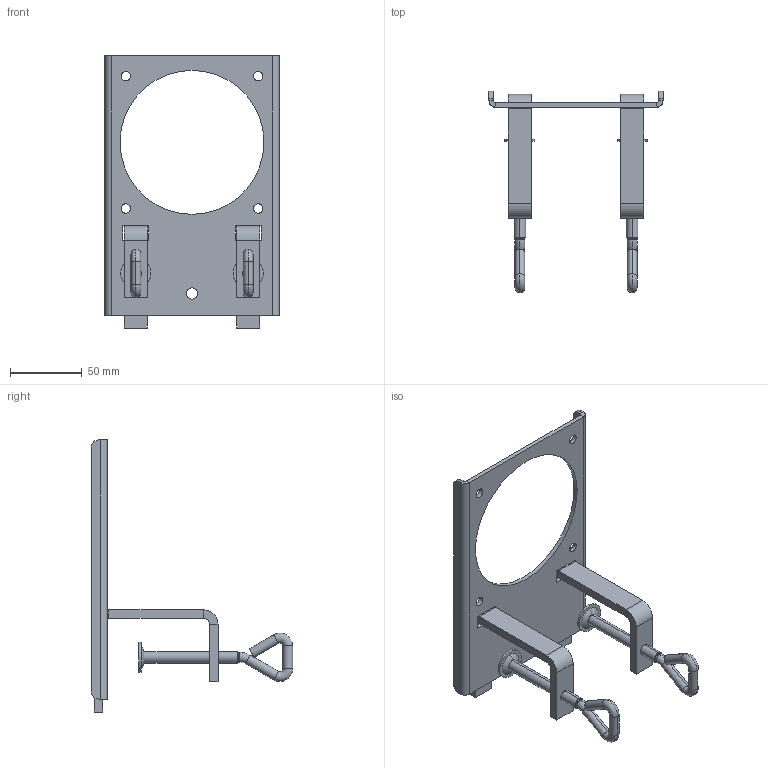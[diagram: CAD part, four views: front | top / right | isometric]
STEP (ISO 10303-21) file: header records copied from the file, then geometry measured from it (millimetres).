
FILE_DESCRIPTION((''),'2;1');
FILE_NAME('124418_ASM','2022-02-14T07:56:14',('SYSTEM'),(''),'CREO PARAMETRIC BY PTC INC, 2018260','CREO PARAMETRIC BY PTC INC, 2018260','');
FILE_SCHEMA(('CONFIG_CONTROL_DESIGN'));
Length unit declared in the file: millimetre
Products named in the file (5): 100735_PRT; 124415-1_PRT; 124415-2_PRT; 124415_ASM; 124418_ASM
Assembly tree (5 placements, depth 3):
  124418_ASM
    100735_PRT
    124415_ASM  x2
      124415-1_PRT
      124415-2_PRT
Bounding box: 121 x 139.8 x 189 mm (x, y, z)
Volume: 97213.4 mm3; surface area: 63970.7 mm2
Topology: 5 solids, 9 shells, 162 faces, 360 edges, 212 vertices
Faces by surface type: plane 74, cylinder 64, torus 12, sphere 8, cone 4
Entity records: 3099 total; most frequent: DIRECTION 580, CARTESIAN_POINT 498, ORIENTED_EDGE 464, EDGE_CURVE 236, AXIS2_PLACEMENT_3D 224, VERTEX_POINT 142, VECTOR 132, LINE 132
